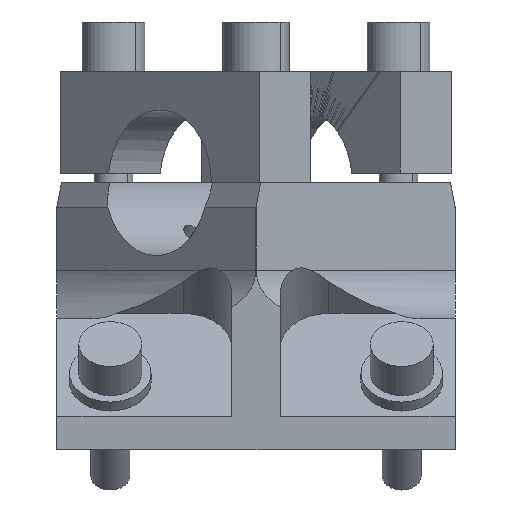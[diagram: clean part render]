
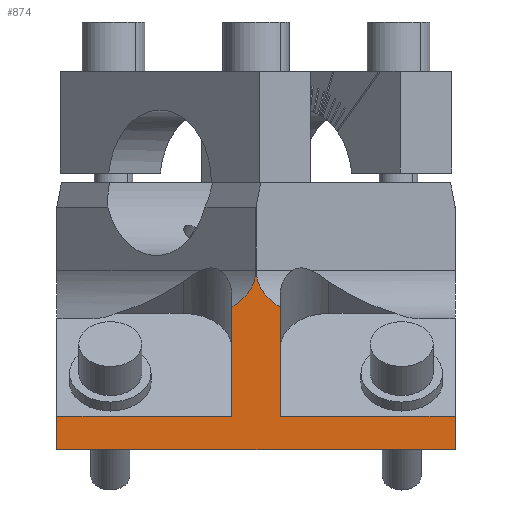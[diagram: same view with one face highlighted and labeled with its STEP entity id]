
A CAD part, left-side view. The second image highlights one B-rep face of the part: STEP entity #874.
In plain terms, the highlighted planar face has unit normal (-1, 0, 0).
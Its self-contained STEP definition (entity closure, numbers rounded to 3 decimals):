
#874=ADVANCED_FACE('Pad.1',(#2069),#2070,.T.);
#2069=FACE_OUTER_BOUND('',#3697,.T.);
#2070=PLANE('',#3698);
#3697=EDGE_LOOP('',(#5894,#5895,#5896,#5897,#5898,#5899,#5900,#5901,#5902,#5903,#5904,#5905,#5906));
#3698=AXIS2_PLACEMENT_3D('',#5907,#5908,#5909);
#5894=ORIENTED_EDGE('',*,*,#9824,.F.);
#5895=ORIENTED_EDGE('',*,*,#9825,.T.);
#5896=ORIENTED_EDGE('',*,*,#9680,.T.);
#5897=ORIENTED_EDGE('',*,*,#9826,.F.);
#5898=ORIENTED_EDGE('',*,*,#9827,.F.);
#5899=ORIENTED_EDGE('',*,*,#9759,.T.);
#5900=ORIENTED_EDGE('',*,*,#9822,.T.);
#5901=ORIENTED_EDGE('',*,*,#9773,.F.);
#5902=ORIENTED_EDGE('',*,*,#9828,.F.);
#5903=ORIENTED_EDGE('',*,*,#9829,.T.);
#5904=ORIENTED_EDGE('',*,*,#9673,.F.);
#5905=ORIENTED_EDGE('',*,*,#9830,.F.);
#5906=ORIENTED_EDGE('',*,*,#9831,.F.);
#5907=CARTESIAN_POINT('',(-39.646,42.311,-16.118));
#5908=DIRECTION('',(-1.0,0.,0.0));
#5909=DIRECTION('',(0.0,0.0,-1.0));
#9673=EDGE_CURVE('',#11581,#11584,#11585,.T.);
#9680=EDGE_CURVE('',#11591,#11595,#11597,.T.);
#9759=EDGE_CURVE('',#11733,#11731,#11734,.T.);
#9773=EDGE_CURVE('',#11753,#11755,#11756,.T.);
#9822=EDGE_CURVE('',#11731,#11755,#11826,.T.);
#9824=EDGE_CURVE('',#11828,#11829,#11830,.F.);
#9825=EDGE_CURVE('',#11828,#11591,#11831,.T.);
#9826=EDGE_CURVE('',#11832,#11595,#11833,.T.);
#9827=EDGE_CURVE('',#11733,#11832,#11834,.T.);
#9828=EDGE_CURVE('',#11835,#11753,#11836,.T.);
#9829=EDGE_CURVE('',#11835,#11584,#11837,.T.);
#9830=EDGE_CURVE('',#11838,#11581,#11839,.T.);
#9831=EDGE_CURVE('',#11829,#11838,#11840,.T.);
#11581=VERTEX_POINT('',#14796);
#11584=VERTEX_POINT('',#14800);
#11585=B_SPLINE_CURVE_WITH_KNOTS('',5,(#14801,#14802,#14803,#14804,#14805,#14806,#14807,#14808,#14809,#14810,#14811,#14812),.UNSPECIFIED.,.F.,.F.,(6,3,3,6),(0.0,4.5,8.13,13.484),.UNSPECIFIED.);
#11591=VERTEX_POINT('',#14837);
#11595=VERTEX_POINT('',#14853);
#11597=B_SPLINE_CURVE_WITH_KNOTS('',5,(#14863,#14864,#14865,#14866,#14867,#14868,#14869,#14870,#14871,#14872,#14873,#14874),.UNSPECIFIED.,.F.,.F.,(6,3,3,6),(0.0,4.501,8.131,13.476),.UNSPECIFIED.);
#11731=VERTEX_POINT('',#15295);
#11733=VERTEX_POINT('',#15298);
#11734=LINE('',#15299,#15300);
#11753=VERTEX_POINT('',#15345);
#11755=VERTEX_POINT('',#15348);
#11756=LINE('',#15349,#15350);
#11826=LINE('',#15472,#15473);
#11828=VERTEX_POINT('',#15475);
#11829=VERTEX_POINT('',#15476);
#11830=LINE('',#15477,#15478);
#11831=LINE('',#15479,#15480);
#11832=VERTEX_POINT('',#15481);
#11833=LINE('',#15482,#15483);
#11834=LINE('',#15484,#15485);
#11835=VERTEX_POINT('',#15486);
#11836=LINE('',#15487,#15488);
#11837=LINE('',#15489,#15490);
#11838=VERTEX_POINT('',#15491);
#11839=B_SPLINE_CURVE_WITH_KNOTS('',5,(#15492,#15493,#15494,#15495,#15496,#15497,#15498,#15499,#15500,#15501,#15502,#15503),.UNSPECIFIED.,.F.,.F.,(6,3,3,6),(0.0,4.5,8.13,13.484),.UNSPECIFIED.);
#11840=LINE('',#15504,#15505);
#14796=CARTESIAN_POINT('',(-39.646,1.298,14.));
#14800=CARTESIAN_POINT('',(-39.646,-3.689,6.378));
#14801=CARTESIAN_POINT('',(-39.646,1.298,14.006));
#14802=CARTESIAN_POINT('',(-39.646,1.299,13.369));
#14803=CARTESIAN_POINT('',(-39.646,1.228,12.733));
#14804=CARTESIAN_POINT('',(-39.646,1.085,12.108));
#14805=CARTESIAN_POINT('',(-39.646,0.71,11.015));
#14806=CARTESIAN_POINT('',(-39.646,0.149,10.007));
#14807=CARTESIAN_POINT('',(-39.646,-0.134,9.577));
#14808=CARTESIAN_POINT('',(-39.646,-0.905,8.564));
#14809=CARTESIAN_POINT('',(-39.646,-1.826,7.681));
#14810=CARTESIAN_POINT('',(-39.646,-2.417,7.201));
#14811=CARTESIAN_POINT('',(-39.646,-3.04,6.768));
#14812=CARTESIAN_POINT('',(-39.646,-3.689,6.378));
#14837=CARTESIAN_POINT('',(-39.646,1.323,14.));
#14853=CARTESIAN_POINT('',(-39.646,6.311,6.378));
#14863=CARTESIAN_POINT('',(-39.646,1.323,14.0));
#14864=CARTESIAN_POINT('',(-39.646,1.323,13.364));
#14865=CARTESIAN_POINT('',(-39.646,1.394,12.727));
#14866=CARTESIAN_POINT('',(-39.646,1.538,12.102));
#14867=CARTESIAN_POINT('',(-39.646,1.914,11.009));
#14868=CARTESIAN_POINT('',(-39.646,2.476,10.002));
#14869=CARTESIAN_POINT('',(-39.646,2.759,9.572));
#14870=CARTESIAN_POINT('',(-39.646,3.53,8.56));
#14871=CARTESIAN_POINT('',(-39.646,4.451,7.678));
#14872=CARTESIAN_POINT('',(-39.646,5.04,7.2));
#14873=CARTESIAN_POINT('',(-39.646,5.663,6.767));
#14874=CARTESIAN_POINT('',(-39.646,6.311,6.378));
#15295=CARTESIAN_POINT('',(-39.646,42.311,-23.0));
#15298=CARTESIAN_POINT('',(-39.646,42.311,-16.118));
#15299=CARTESIAN_POINT('',(-39.646,42.311,-19.559));
#15300=VECTOR('',#19077,1.0);
#15345=CARTESIAN_POINT('',(-39.646,-39.689,-16.118));
#15348=CARTESIAN_POINT('',(-39.646,-39.689,-23.0));
#15349=CARTESIAN_POINT('',(-39.646,-39.689,-19.559));
#15350=VECTOR('',#19088,1.0);
#15472=CARTESIAN_POINT('',(-39.646,1.311,-23.0));
#15473=VECTOR('',#19147,1.0);
#15475=CARTESIAN_POINT('',(-39.646,1.323,26.999));
#15476=CARTESIAN_POINT('',(-39.646,1.298,27.063));
#15477=CARTESIAN_POINT('',(-39.646,1.311,27.031));
#15478=VECTOR('',#19148,1.0);
#15479=CARTESIAN_POINT('',(-39.646,1.323,20.5));
#15480=VECTOR('',#19149,1.0);
#15481=CARTESIAN_POINT('',(-39.646,6.311,-16.118));
#15482=CARTESIAN_POINT('',(-39.646,6.311,-4.87));
#15483=VECTOR('',#19150,1.0);
#15484=CARTESIAN_POINT('',(-39.646,24.311,-16.118));
#15485=VECTOR('',#19151,1.0);
#15486=CARTESIAN_POINT('',(-39.646,-3.689,-16.118));
#15487=CARTESIAN_POINT('',(-39.646,-21.689,-16.118));
#15488=VECTOR('',#19152,1.0);
#15489=CARTESIAN_POINT('',(-39.646,-3.689,-4.87));
#15490=VECTOR('',#19153,1.0);
#15491=CARTESIAN_POINT('',(-39.646,1.298,14.006));
#15492=CARTESIAN_POINT('',(-39.646,1.298,14.006));
#15493=CARTESIAN_POINT('',(-39.646,1.299,13.369));
#15494=CARTESIAN_POINT('',(-39.646,1.228,12.733));
#15495=CARTESIAN_POINT('',(-39.646,1.085,12.108));
#15496=CARTESIAN_POINT('',(-39.646,0.71,11.015));
#15497=CARTESIAN_POINT('',(-39.646,0.149,10.007));
#15498=CARTESIAN_POINT('',(-39.646,-0.134,9.577));
#15499=CARTESIAN_POINT('',(-39.646,-0.905,8.564));
#15500=CARTESIAN_POINT('',(-39.646,-1.826,7.681));
#15501=CARTESIAN_POINT('',(-39.646,-2.417,7.201));
#15502=CARTESIAN_POINT('',(-39.646,-3.04,6.768));
#15503=CARTESIAN_POINT('',(-39.646,-3.689,6.378));
#15504=CARTESIAN_POINT('',(-39.646,1.298,20.535));
#15505=VECTOR('',#19154,1.0);
#19077=DIRECTION('',(0.0,0.0,-1.0));
#19088=DIRECTION('',(0.0,0.0,-1.0));
#19147=DIRECTION('',(0.,-1.0,0.0));
#19148=DIRECTION('',(0.,0.354,-0.935));
#19149=DIRECTION('',(0.0,0.0,-1.0));
#19150=DIRECTION('',(0.0,0.0,1.0));
#19151=DIRECTION('',(0.,-1.0,0.0));
#19152=DIRECTION('',(0.,-1.0,0.0));
#19153=DIRECTION('',(0.0,0.0,1.0));
#19154=DIRECTION('',(0.0,0.,-1.0));
